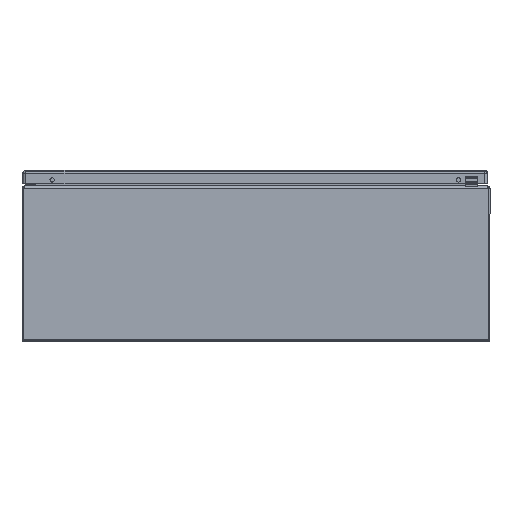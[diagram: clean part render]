
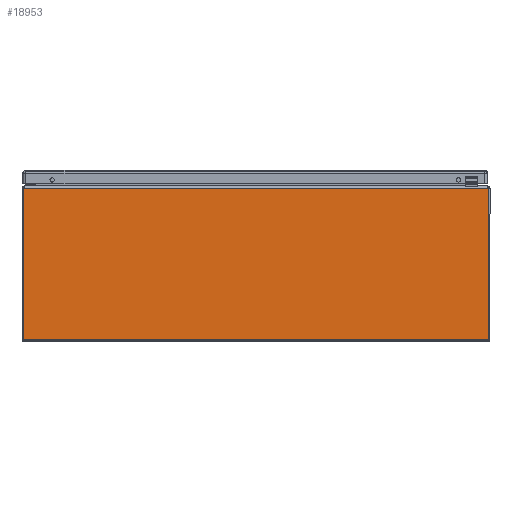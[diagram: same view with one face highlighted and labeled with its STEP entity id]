
A CAD part, front view. The second image highlights one B-rep face of the part: STEP entity #18953.
In plain terms, the highlighted planar face has unit normal (0, -1, 0).
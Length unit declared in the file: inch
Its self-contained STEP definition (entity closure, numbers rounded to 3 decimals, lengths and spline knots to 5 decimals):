
#1813 = CARTESIAN_POINT ( 'NONE',  ( -11.93793, -15., 7.855 ) ) ;
#1825 = CARTESIAN_POINT ( 'NONE',  ( 11.93793, -15., 7.855 ) ) ;
#1857 = CARTESIAN_POINT ( 'NONE',  ( -11.93793, -15., 0.106 ) ) ;
#1858 = CARTESIAN_POINT ( 'NONE',  ( 11.93793, -15., 0.106 ) ) ;
#6423 = DIRECTION ( 'NONE',  ( 0., 0., -1. ) ) ;
#6424 = DIRECTION ( 'NONE',  ( 0., -1., 0. ) ) ;
#6428 = PLANE ( 'NONE',  #28591 ) ;
#6432 = CARTESIAN_POINT ( 'NONE',  ( -162., -15., 7.855 ) ) ;
#18953 = ADVANCED_FACE ( 'NONE', ( #22271 ), #6428, .T. ) ;
#22271 = FACE_OUTER_BOUND ( 'NONE', #44668, .T. ) ;
#24587 = VECTOR ( 'NONE', #34115, 39.37008 ) ;
#24595 = LINE ( 'NONE', #34119, #24587 ) ;
#24650 = LINE ( 'NONE', #33997, #24660 ) ;
#24660 = VECTOR ( 'NONE', #33996, 39.37008 ) ;
#24678 = LINE ( 'NONE', #33970, #24679 ) ;
#24679 = VECTOR ( 'NONE', #33969, 39.37008 ) ;
#24685 = LINE ( 'NONE', #33960, #24686 ) ;
#24686 = VECTOR ( 'NONE', #33959, 39.37008 ) ;
#25542 = ORIENTED_EDGE ( 'NONE', *, *, #40243, .T. ) ;
#25543 = ORIENTED_EDGE ( 'NONE', *, *, #40186, .T. ) ;
#25544 = ORIENTED_EDGE ( 'NONE', *, *, #40239, .F. ) ;
#25545 = ORIENTED_EDGE ( 'NONE', *, *, #40229, .T. ) ;
#28591 = AXIS2_PLACEMENT_3D ( 'NONE', #6432, #6424, #6423 ) ;
#33959 = DIRECTION ( 'NONE',  ( 1., 0., 0. ) ) ;
#33960 = CARTESIAN_POINT ( 'NONE',  ( -162., -15., 0.106 ) ) ;
#33969 = DIRECTION ( 'NONE',  ( 1., 0., 0. ) ) ;
#33970 = CARTESIAN_POINT ( 'NONE',  ( -162., -15., 7.855 ) ) ;
#33996 = DIRECTION ( 'NONE',  ( 0., 0., 1. ) ) ;
#33997 = CARTESIAN_POINT ( 'NONE',  ( 11.93793, -15., 7.855 ) ) ;
#34115 = DIRECTION ( 'NONE',  ( 0., 0., -1. ) ) ;
#34119 = CARTESIAN_POINT ( 'NONE',  ( -11.93793, -15., 7.855 ) ) ;
#40186 = EDGE_CURVE ( 'NONE', #42634, #42463, #24595, .T. ) ;
#40229 = EDGE_CURVE ( 'NONE', #42435, #42623, #24650, .T. ) ;
#40239 = EDGE_CURVE ( 'NONE', #42634, #42623, #24678, .T. ) ;
#40243 = EDGE_CURVE ( 'NONE', #42463, #42435, #24685, .T. ) ;
#42435 = VERTEX_POINT ( 'NONE', #1858 ) ;
#42463 = VERTEX_POINT ( 'NONE', #1857 ) ;
#42623 = VERTEX_POINT ( 'NONE', #1825 ) ;
#42634 = VERTEX_POINT ( 'NONE', #1813 ) ;
#44668 = EDGE_LOOP ( 'NONE', ( #25545, #25544, #25543, #25542 ) ) ;
